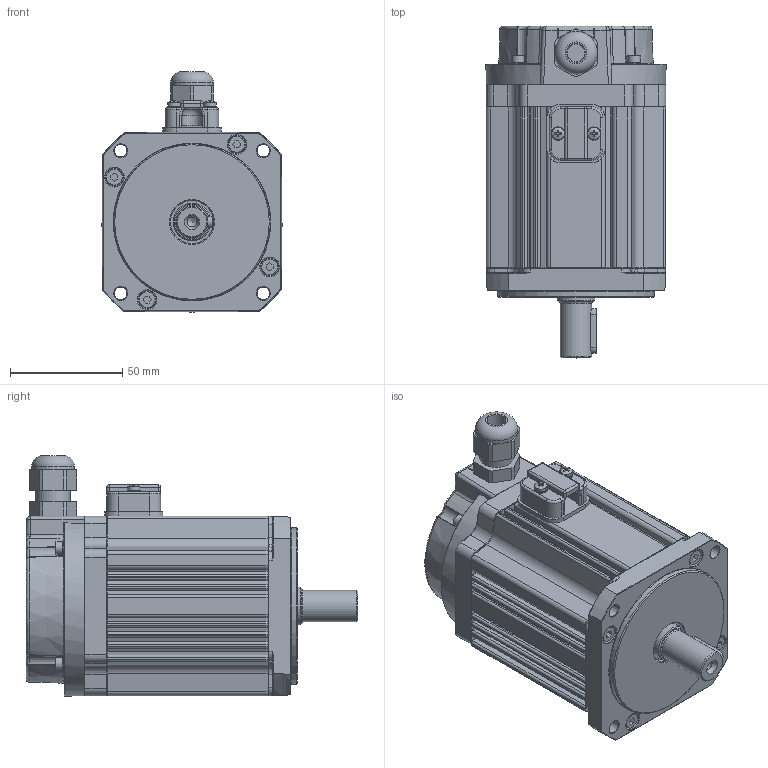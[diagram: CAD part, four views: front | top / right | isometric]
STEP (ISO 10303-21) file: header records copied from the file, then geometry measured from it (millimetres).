
FILE_DESCRIPTION(('STEP AP203'),'1');
FILE_NAME('B101E-D2R.stp','2021-04-14T07:01:51',(' '),(' '),'Spatial InterOp 3D',' ',' ');
FILE_SCHEMA(('CONFIG_CONTROL_DESIGN'));
Length unit declared in the file: millimetre
Products named in the file (1): B101E-D2R
Bounding box: 80.41 x 148 x 107.23 mm (x, y, z)
Volume: 638261 mm3; surface area: 71603 mm2
Topology: 1 solids, 13 shells, 1643 faces, 3927 edges, 2320 vertices
Faces by surface type: plane 781, cone 419, cylinder 299, torus 95, bspline 35, sphere 7, revolution 7
Full cylindrical faces by diameter (mm): 2.5 x8, 3 x10, 3.3 x5, 3.5 x8, 4 x4, 4.2 x1, 5.5 x8, 5.6 x2, 6 x4, 7 x4, 8 x1, 8.5 x1, 9 x1, 14 x1, 15.2 x1, 16.8 x1, 19 x1, 70 x1
Entity records: 49563 total; most frequent: CARTESIAN_POINT 12438, DIRECTION 8075, ORIENTED_EDGE 7356, EDGE_CURVE 3678, AXIS2_PLACEMENT_3D 3041, VERTEX_POINT 2237, LINE 1986, VECTOR 1986
